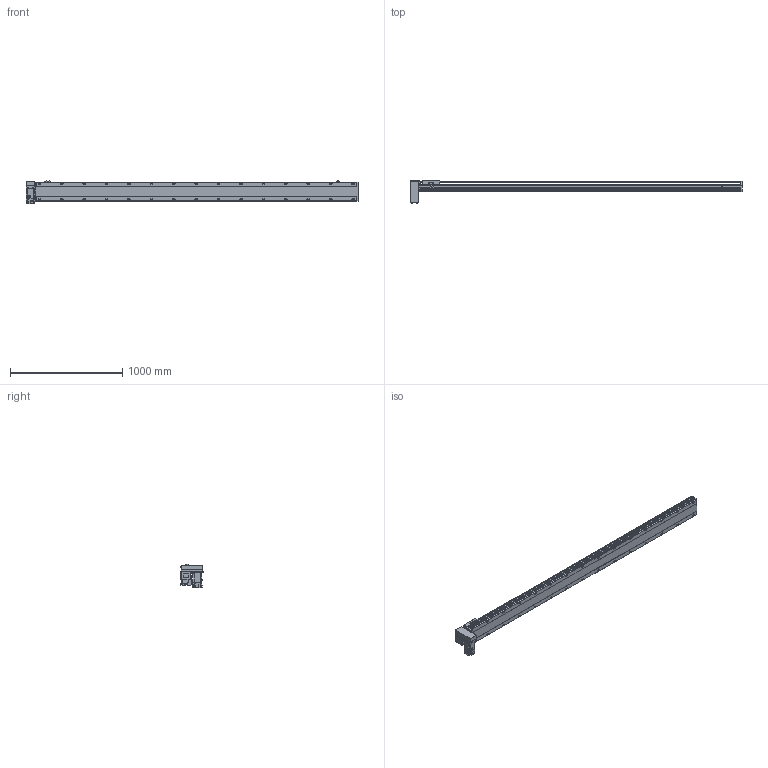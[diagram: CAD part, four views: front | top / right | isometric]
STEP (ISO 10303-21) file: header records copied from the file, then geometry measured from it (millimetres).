
FILE_DESCRIPTION( ( 'STEP AP214' ), '1' );
FILE_NAME( 'x:/temp/worker_5/temp/exporttempdir_3988_48_QPQDO/format_0/PBS170-P40-S2600-RD-T75-C1-N(0).stp', '2022-06-08T05:38:01', ( 'License CC BY-ND 4.0' ), ( 'CADENAS' ), ' ', 'PARTsolutions', ' ' );
FILE_SCHEMA( ( 'AUTOMOTIVE_DESIGN { 1 0 10303 214 1 1 1 1 }' ) );
Length unit declared in the file: millimetre
Products named in the file (7): PBS170-P40-S2600-RD-T75-C1-N(0); _PBS170-S2600()_body; _PBS170T-RD_motors; _T75-p1; _PBS170_sliser; _PBS170_plant; _PBS170_sensor
Assembly tree (8 placements, depth 2):
  PBS170-P40-S2600-RD-T75-C1-N(0)
    _PBS170-S2600()_body
    _PBS170T-RD_motors
    _T75-p1
    _PBS170_sliser
    _PBS170_plant
    _PBS170_sensor  x3
Bounding box: 2963 x 201 x 205.3 mm (x, y, z)
Volume: 22393145.3 mm3; surface area: 2814760.4 mm2
Topology: 8 solids, 8 shells, 1194 faces, 3155 edges, 2056 vertices
Faces by surface type: plane 729, cylinder 395, cone 60, sphere 8, torus 2
Full cylindrical faces by diameter (mm): 3.242 x4, 4 x2, 4.4 x4, 4.5 x6, 4.917 x4, 6 x9, 6.647 x38, 7 x2, 7.5 x4, 8 x8, 8.5 x30, 10 x4, 10.5 x30, 11 x2, 30 x2, 40 x1, 70 x1
Entity records: 44234 total; most frequent: CARTESIAN_POINT 7397, DIRECTION 5790, ORIENTED_EDGE 5448, EDGE_CURVE 2724, AXIS2_PLACEMENT_3D 2047, VERTEX_POINT 1898, LINE 1696, VECTOR 1696
